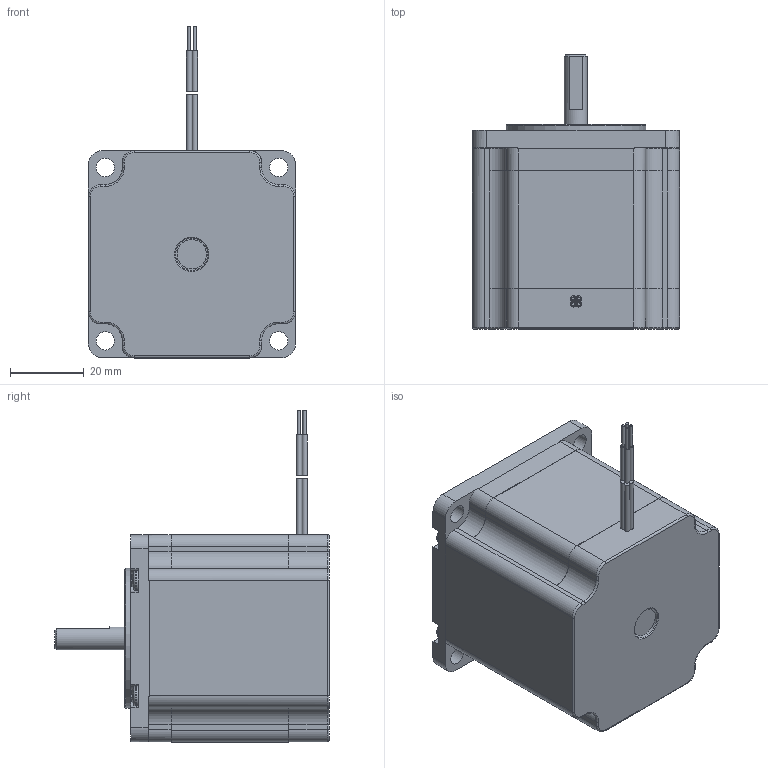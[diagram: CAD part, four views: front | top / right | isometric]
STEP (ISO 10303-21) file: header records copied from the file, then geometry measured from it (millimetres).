
FILE_DESCRIPTION((''),'1');
FILE_NAME('T:/Kubotek Models For Design Assemblies/3D Step File Models Posted on-line/Standalone Products/NEMA23/M-2222-3.0S.stp', '2019-04-02T15:24:04',(''), (''), 'KCM Version 1.1.0.0', 'KeyCreator', '');
FILE_SCHEMA(('AUTOMOTIVE_DESIGN'));
Length unit declared in the file: inch
Bounding box: 56.3 x 74.6 x 90.26 mm (x, y, z)
Volume: 2117.3 mm3; surface area: 21941.8 mm2
Topology: 12 solids, 13 shells, 301 faces, 715 edges, 457 vertices
Faces by surface type: plane 162, cylinder 86, cone 25, torus 24, sphere 4
Full cylindrical faces by diameter (mm): 0.833 x4, 3.175 x8, 5 x4, 6.35 x1, 8 x1, 8.788 x1, 38.1 x1
Entity records: 9062 total; most frequent: DIRECTION 1569, CARTESIAN_POINT 1551, ORIENTED_EDGE 1438, EDGE_CURVE 715, AXIS2_PLACEMENT_3D 611, VERTEX_POINT 457, VECTOR 347, LINE 347
